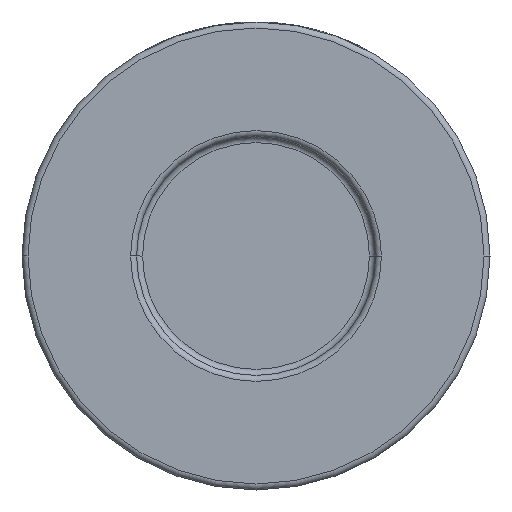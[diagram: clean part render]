
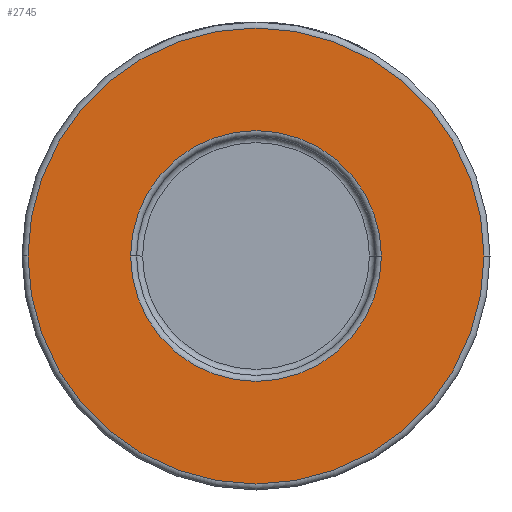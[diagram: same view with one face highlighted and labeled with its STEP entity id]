
A CAD part, front view. The second image highlights one B-rep face of the part: STEP entity #2745.
In plain terms, the highlighted planar face has unit normal (0, -1, 0).
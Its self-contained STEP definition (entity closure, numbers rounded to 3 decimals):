
#99 = EDGE_CURVE ( 'NONE', #3540, #2088, #2909, .T. ) ;
#273 = CIRCLE ( 'NONE', #3145, 38. ) ;
#304 = CARTESIAN_POINT ( 'NONE',  ( 0., -26., 0. ) ) ;
#353 = VERTEX_POINT ( 'NONE', #576 ) ;
#408 = EDGE_CURVE ( 'NONE', #353, #2453, #4384, .T. ) ;
#421 = PLANE ( 'NONE',  #4558 ) ;
#434 = DIRECTION ( 'NONE',  ( 1., 0., 0. ) ) ;
#465 = CARTESIAN_POINT ( 'NONE',  ( 39., -26., 0. ) ) ;
#576 = CARTESIAN_POINT ( 'NONE',  ( -38., -26., 0. ) ) ;
#614 = AXIS2_PLACEMENT_3D ( 'NONE', #3965, #1480, #434 ) ;
#742 = ORIENTED_EDGE ( 'NONE', *, *, #3502, .T. ) ;
#909 = DIRECTION ( 'NONE',  ( 0., 1., 0. ) ) ;
#914 = AXIS2_PLACEMENT_3D ( 'NONE', #2659, #909, #2681 ) ;
#1226 = AXIS2_PLACEMENT_3D ( 'NONE', #304, #4184, #1420 ) ;
#1235 = CARTESIAN_POINT ( 'NONE',  ( 20.9, -26., 0. ) ) ;
#1308 = EDGE_CURVE ( 'NONE', #2088, #3540, #1376, .T. ) ;
#1376 = CIRCLE ( 'NONE', #1226, 20.9 ) ;
#1420 = DIRECTION ( 'NONE',  ( 1., 0., 0. ) ) ;
#1480 = DIRECTION ( 'NONE',  ( 0., -1., 0. ) ) ;
#1836 = DIRECTION ( 'NONE',  ( 0., -1., 0. ) ) ;
#2088 = VERTEX_POINT ( 'NONE', #1235 ) ;
#2417 = EDGE_LOOP ( 'NONE', ( #742, #2696 ) ) ;
#2453 = VERTEX_POINT ( 'NONE', #4431 ) ;
#2546 = DIRECTION ( 'NONE',  ( 1., 0., 0. ) ) ;
#2599 = FACE_BOUND ( 'NONE', #3885, .T. ) ;
#2659 = CARTESIAN_POINT ( 'NONE',  ( 0., -26., 0. ) ) ;
#2681 = DIRECTION ( 'NONE',  ( 1., 0., 0. ) ) ;
#2696 = ORIENTED_EDGE ( 'NONE', *, *, #408, .T. ) ;
#2745 = ADVANCED_FACE ( 'NONE', ( #2599, #3628 ), #421, .T. ) ;
#2909 = CIRCLE ( 'NONE', #914, 20.9 ) ;
#3145 = AXIS2_PLACEMENT_3D ( 'NONE', #3572, #4219, #2546 ) ;
#3239 = DIRECTION ( 'NONE',  ( 1., 0., 0. ) ) ;
#3463 = ORIENTED_EDGE ( 'NONE', *, *, #1308, .T. ) ;
#3502 = EDGE_CURVE ( 'NONE', #2453, #353, #273, .T. ) ;
#3540 = VERTEX_POINT ( 'NONE', #3870 ) ;
#3572 = CARTESIAN_POINT ( 'NONE',  ( 0., -26., 0. ) ) ;
#3628 = FACE_OUTER_BOUND ( 'NONE', #2417, .T. ) ;
#3870 = CARTESIAN_POINT ( 'NONE',  ( -20.9, -26., 0. ) ) ;
#3885 = EDGE_LOOP ( 'NONE', ( #3463, #4105 ) ) ;
#3965 = CARTESIAN_POINT ( 'NONE',  ( 0., -26., 0. ) ) ;
#4105 = ORIENTED_EDGE ( 'NONE', *, *, #99, .T. ) ;
#4184 = DIRECTION ( 'NONE',  ( 0., 1., 0. ) ) ;
#4219 = DIRECTION ( 'NONE',  ( 0., -1., 0. ) ) ;
#4384 = CIRCLE ( 'NONE', #614, 38. ) ;
#4431 = CARTESIAN_POINT ( 'NONE',  ( 38., -26., 0. ) ) ;
#4558 = AXIS2_PLACEMENT_3D ( 'NONE', #465, #1836, #3239 ) ;
